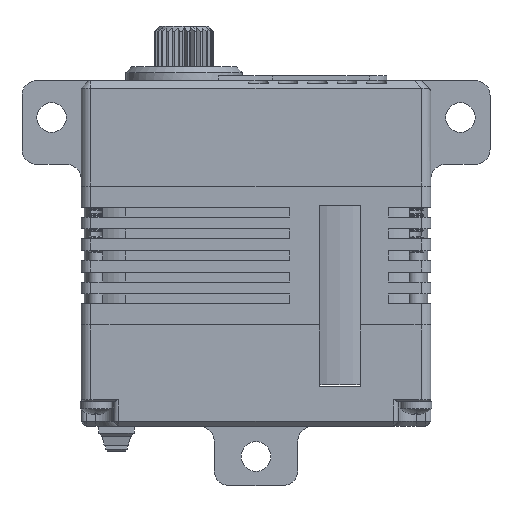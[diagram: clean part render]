
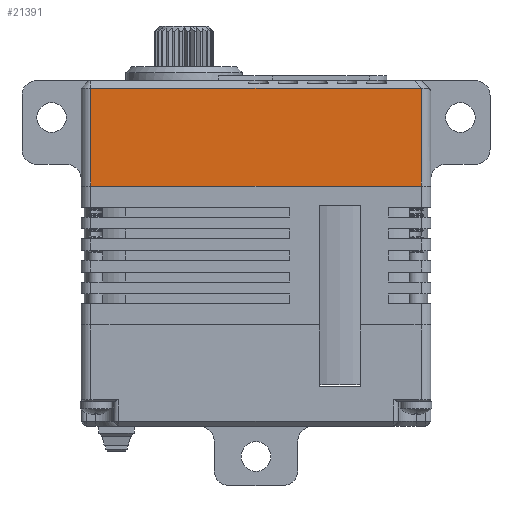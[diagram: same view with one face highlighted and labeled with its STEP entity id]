
A CAD part, front view. The second image highlights one B-rep face of the part: STEP entity #21391.
In plain terms, the highlighted planar face has unit normal (0, -1, 0).
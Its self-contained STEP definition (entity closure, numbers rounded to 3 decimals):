
#925 = CARTESIAN_POINT ( 'NONE',  ( -42.614, -12.878, 5.25 ) ) ;
#1050 = EDGE_LOOP ( 'NONE', ( #12796, #12587, #20832, #16557 ) ) ;
#2191 = PLANE ( 'NONE',  #21182 ) ;
#3074 = CARTESIAN_POINT ( 'NONE',  ( -42.614, -12.878, 5.25 ) ) ;
#3272 = LINE ( 'NONE', #17619, #12775 ) ;
#5103 = LINE ( 'NONE', #22499, #28971 ) ;
#5387 = DIRECTION ( 'NONE',  ( -1., 0., 0. ) ) ;
#5746 = EDGE_CURVE ( 'NONE', #32356, #6311, #5103, .T. ) ;
#6311 = VERTEX_POINT ( 'NONE', #8923 ) ;
#6616 = FACE_OUTER_BOUND ( 'NONE', #1050, .T. ) ;
#8923 = CARTESIAN_POINT ( 'NONE',  ( -42.614, -12.878, 15.15 ) ) ;
#9639 = EDGE_CURVE ( 'NONE', #12172, #17577, #23737, .T. ) ;
#10608 = VECTOR ( 'NONE', #21827, 1000. ) ;
#11469 = CARTESIAN_POINT ( 'NONE',  ( -76.114, -12.878, 5.25 ) ) ;
#12172 = VERTEX_POINT ( 'NONE', #3074 ) ;
#12587 = ORIENTED_EDGE ( 'NONE', *, *, #5746, .F. ) ;
#12775 = VECTOR ( 'NONE', #13084, 1000. ) ;
#12796 = ORIENTED_EDGE ( 'NONE', *, *, #13997, .T. ) ;
#13084 = DIRECTION ( 'NONE',  ( 0., 0., 1. ) ) ;
#13997 = EDGE_CURVE ( 'NONE', #12172, #6311, #18847, .T. ) ;
#15746 = EDGE_CURVE ( 'NONE', #17577, #32356, #3272, .T. ) ;
#16557 = ORIENTED_EDGE ( 'NONE', *, *, #9639, .F. ) ;
#17577 = VERTEX_POINT ( 'NONE', #11469 ) ;
#17619 = CARTESIAN_POINT ( 'NONE',  ( -76.114, -12.878, 10.25 ) ) ;
#18332 = CARTESIAN_POINT ( 'NONE',  ( -76.114, -12.878, 15.15 ) ) ;
#18847 = LINE ( 'NONE', #925, #10608 ) ;
#20160 = DIRECTION ( 'NONE',  ( 1., 0., 0. ) ) ;
#20471 = CARTESIAN_POINT ( 'NONE',  ( -77.114, -12.878, 5.25 ) ) ;
#20832 = ORIENTED_EDGE ( 'NONE', *, *, #15746, .F. ) ;
#21056 = CARTESIAN_POINT ( 'NONE',  ( -77.114, -12.878, 5.25 ) ) ;
#21182 = AXIS2_PLACEMENT_3D ( 'NONE', #20471, #33719, #31056 ) ;
#21391 = ADVANCED_FACE ( 'NONE', ( #6616 ), #2191, .F. ) ;
#21827 = DIRECTION ( 'NONE',  ( 0., 0., 1. ) ) ;
#22499 = CARTESIAN_POINT ( 'NONE',  ( -77.114, -12.878, 15.15 ) ) ;
#23737 = LINE ( 'NONE', #21056, #30356 ) ;
#28971 = VECTOR ( 'NONE', #20160, 1000. ) ;
#30356 = VECTOR ( 'NONE', #5387, 1000. ) ;
#31056 = DIRECTION ( 'NONE',  ( 0., 0., 1. ) ) ;
#32356 = VERTEX_POINT ( 'NONE', #18332 ) ;
#33719 = DIRECTION ( 'NONE',  ( 0., 1., 0. ) ) ;
